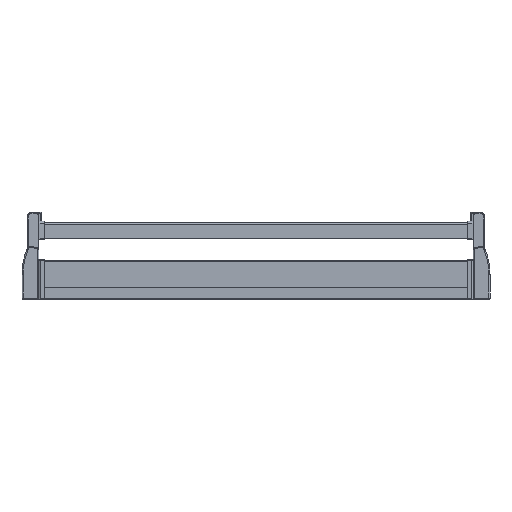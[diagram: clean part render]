
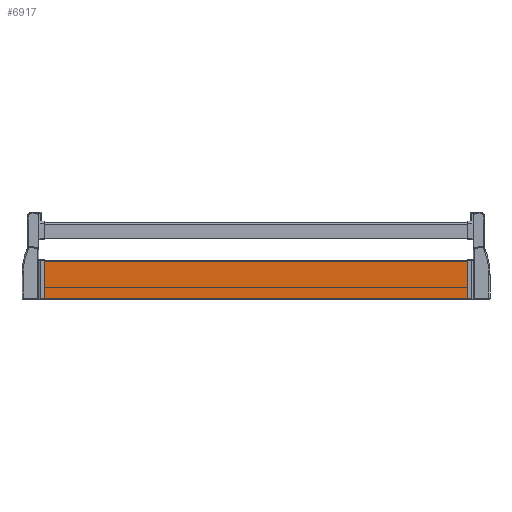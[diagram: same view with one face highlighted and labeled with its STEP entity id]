
A CAD part, top view. The second image highlights one B-rep face of the part: STEP entity #6917.
In plain terms, the highlighted planar face has unit normal (0, 0, 1).
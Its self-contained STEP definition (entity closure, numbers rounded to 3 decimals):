
#2079 = CARTESIAN_POINT ( 'NONE',  ( -385.8, -92.5, 1.4 ) ) ;
#3436 = CARTESIAN_POINT ( 'NONE',  ( 385.8, -92.5, 1.4 ) ) ;
#3442 = DIRECTION ( 'NONE',  ( 0., 1., 0. ) ) ;
#3443 = VECTOR ( 'NONE', #3442, 1000. ) ;
#3444 = CARTESIAN_POINT ( 'NONE',  ( 385.8, -92.5, 1.4 ) ) ;
#3445 = LINE ( 'NONE', #3444, #3443 ) ;
#3492 = CARTESIAN_POINT ( 'NONE',  ( 385.8, -23., 1.4 ) ) ;
#4613 = DIRECTION ( 'NONE',  ( -1., 0., 0. ) ) ;
#4614 = VECTOR ( 'NONE', #4613, 1000. ) ;
#4615 = CARTESIAN_POINT ( 'NONE',  ( 459.556, -92.5, 1.4 ) ) ;
#4616 = LINE ( 'NONE', #4615, #4614 ) ;
#4913 = DIRECTION ( 'NONE',  ( 0., 1., 0. ) ) ;
#4914 = VECTOR ( 'NONE', #4913, 1000. ) ;
#4915 = CARTESIAN_POINT ( 'NONE',  ( -385.8, -92.5, 1.4 ) ) ;
#4918 = LINE ( 'NONE', #4915, #4914 ) ;
#4936 = DIRECTION ( 'NONE',  ( 0., 1., 0. ) ) ;
#4937 = DIRECTION ( 'NONE',  ( 0., 0., -1. ) ) ;
#4938 = CARTESIAN_POINT ( 'NONE',  ( 459.556, -92.5, 1.4 ) ) ;
#4939 = AXIS2_PLACEMENT_3D ( 'NONE', #4938, #4937, #4936 ) ;
#4940 = PLANE ( 'NONE',  #4939 ) ;
#4941 = FACE_OUTER_BOUND ( 'NONE', #6876, .T. ) ;
#4981 = CARTESIAN_POINT ( 'NONE',  ( -385.8, -23., 1.4 ) ) ;
#4982 = DIRECTION ( 'NONE',  ( -1., 0., 0. ) ) ;
#4983 = VECTOR ( 'NONE', #4982, 1000. ) ;
#4984 = CARTESIAN_POINT ( 'NONE',  ( 459.556, -23., 1.4 ) ) ;
#4985 = LINE ( 'NONE', #4984, #4983 ) ;
#5503 = VERTEX_POINT ( 'NONE', #2079 ) ;
#6229 = EDGE_CURVE ( 'NONE', #6234, #6239, #3445, .T. ) ;
#6234 = VERTEX_POINT ( 'NONE', #3436 ) ;
#6239 = VERTEX_POINT ( 'NONE', #3492 ) ;
#6769 = EDGE_CURVE ( 'NONE', #6234, #5503, #4616, .T. ) ;
#6876 = EDGE_LOOP ( 'NONE', ( #6989, #6990, #6935, #6939 ) ) ;
#6901 = EDGE_CURVE ( 'NONE', #5503, #6937, #4918, .T. ) ;
#6917 = ADVANCED_FACE ( 'NONE', ( #4941 ), #4940, .F. ) ;
#6935 = ORIENTED_EDGE ( 'NONE', *, *, #6936, .T. ) ;
#6936 = EDGE_CURVE ( 'NONE', #6239, #6937, #4985, .T. ) ;
#6937 = VERTEX_POINT ( 'NONE', #4981 ) ;
#6939 = ORIENTED_EDGE ( 'NONE', *, *, #6901, .F. ) ;
#6989 = ORIENTED_EDGE ( 'NONE', *, *, #6769, .F. ) ;
#6990 = ORIENTED_EDGE ( 'NONE', *, *, #6229, .T. ) ;
